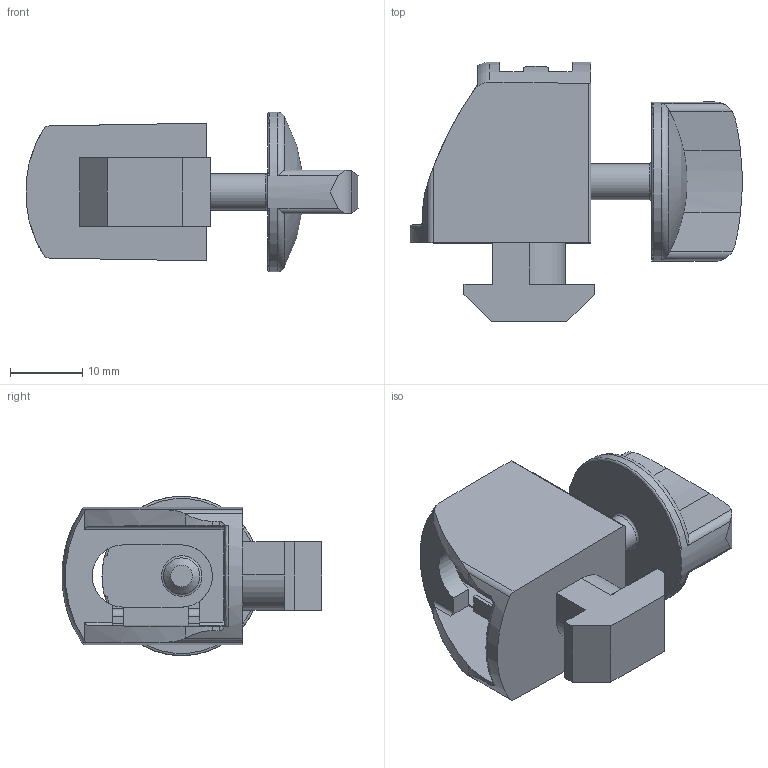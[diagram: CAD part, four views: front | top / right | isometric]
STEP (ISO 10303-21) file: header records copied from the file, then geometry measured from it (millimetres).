
FILE_DESCRIPTION(/* description */ ('STEP AP214'),/* implementation_level */ '2;1');
FILE_NAME(/* name */ '094701',/* time_stamp */ '2023-08-30T13:21:21+02:00',/* author */ ('License CC BY-ND 4.0'),/* organization */ ('CADENAS'),/* preprocessor_version */ 'ST-DEVELOPER v19.3',/* originating_system */ 'PARTsolutions',/* authorisation */ ' ');
FILE_SCHEMA (('AUTOMOTIVE_DESIGN {1 0 10303 214 3 1 1}'));
Length unit declared in the file: millimetre
Products named in the file (3): 094701; 0947012; 0947011
Assembly tree (2 placements, depth 2):
  094701
    0947012
    0947011
Bounding box: 45.82 x 35.85 x 22 mm (x, y, z)
Volume: 8348.6 mm3; surface area: 6099.8 mm2
Topology: 2 solids, 2 shells, 115 faces, 316 edges, 208 vertices
Faces by surface type: plane 55, cylinder 49, torus 7, sphere 2, cone 2
Full cylindrical faces by diameter (mm): 2 x2, 5 x1, 22 x1
Entity records: 3784 total; most frequent: CARTESIAN_POINT 815, ORIENTED_EDGE 620, DIRECTION 585, EDGE_CURVE 310, AXIS2_PLACEMENT_3D 210, VERTEX_POINT 208, LINE 165, VECTOR 165
